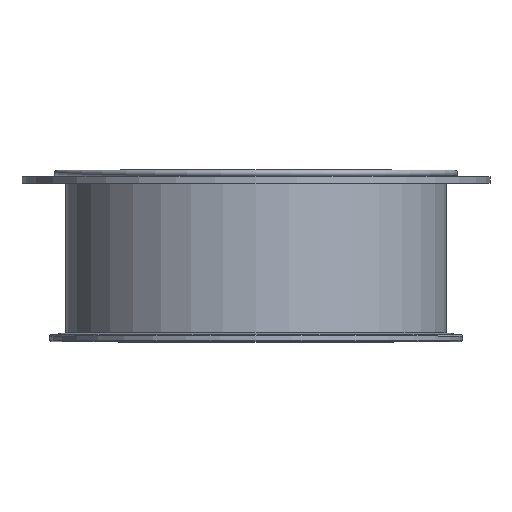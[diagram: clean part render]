
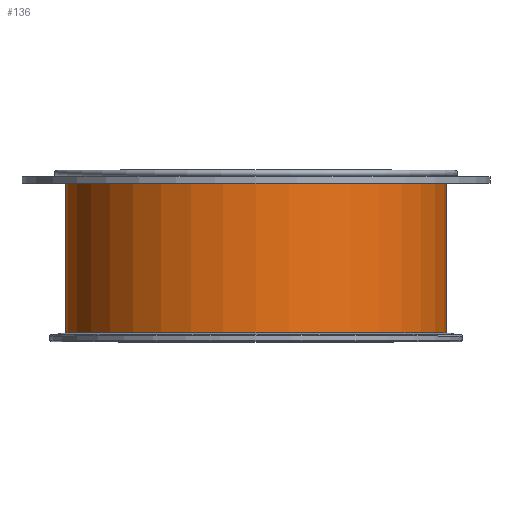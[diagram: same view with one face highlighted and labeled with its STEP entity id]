
A CAD part, top view. The second image highlights one B-rep face of the part: STEP entity #136.
In plain terms, the highlighted cylindrical face has radius 112.8 mm (diameter 225.6 mm), a full revolution.
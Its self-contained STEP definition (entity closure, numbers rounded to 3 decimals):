
#108=CYLINDRICAL_SURFACE('',#502,112.8);
#136=ADVANCED_FACE('',(#173,#174),#108,.T.);
#173=FACE_BOUND('',#245,.T.);
#174=FACE_BOUND('',#246,.T.);
#245=EDGE_LOOP('',(#317));
#246=EDGE_LOOP('',(#318));
#317=ORIENTED_EDGE('',*,*,#414,.F.);
#318=ORIENTED_EDGE('',*,*,#422,.F.);
#378=VERTEX_POINT('',#690);
#386=VERTEX_POINT('',#711);
#414=EDGE_CURVE('',#378,#378,#450,.T.);
#422=EDGE_CURVE('',#386,#386,#458,.T.);
#450=CIRCLE('',#487,112.8);
#458=CIRCLE('',#500,112.8);
#487=AXIS2_PLACEMENT_3D('',#689,#556,#557);
#500=AXIS2_PLACEMENT_3D('',#710,#582,#583);
#502=AXIS2_PLACEMENT_3D('',#713,#586,#587);
#556=DIRECTION('',(0.,-1.,0.));
#557=DIRECTION('',(-1.,0.,0.));
#582=DIRECTION('',(0.,1.,0.));
#583=DIRECTION('',(1.,0.,0.));
#586=DIRECTION('',(0.,1.,0.));
#587=DIRECTION('',(1.,0.,0.));
#689=CARTESIAN_POINT('',(0.,5.196,0.));
#690=CARTESIAN_POINT('',(-112.8,5.196,0.));
#710=CARTESIAN_POINT('',(0.,99.2,0.));
#711=CARTESIAN_POINT('',(112.8,99.2,0.));
#713=CARTESIAN_POINT('',(0.,-192.076,0.));
